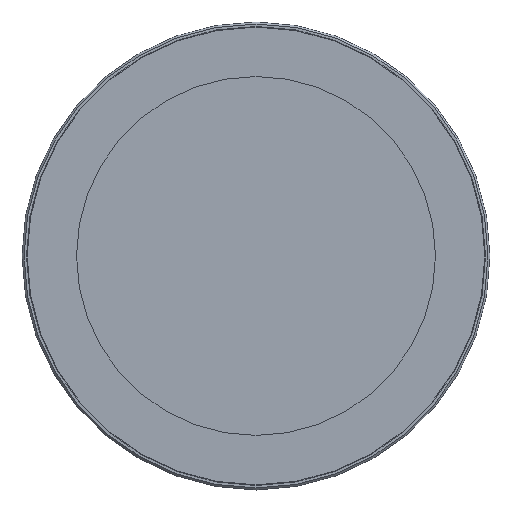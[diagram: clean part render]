
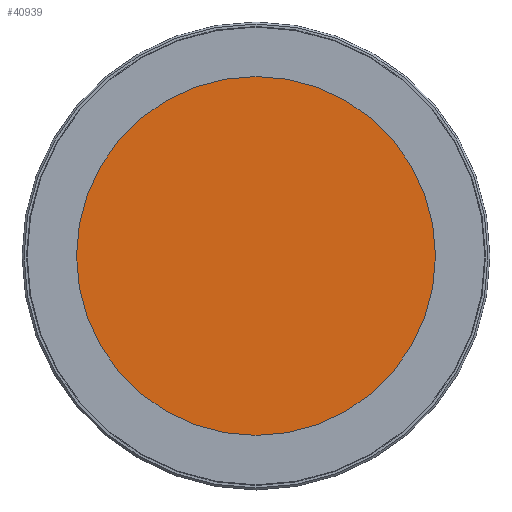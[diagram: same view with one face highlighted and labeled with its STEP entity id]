
A CAD part, top view. The second image highlights one B-rep face of the part: STEP entity #40939.
In plain terms, the highlighted planar face has unit normal (0, 0, 1).
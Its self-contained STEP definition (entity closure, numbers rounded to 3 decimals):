
#10238=CARTESIAN_POINT('',(0.,0.,3.7));
#10239=DIRECTION('',(0.,0.,-1.));
#10240=DIRECTION('',(1.,0.,0.));
#10241=AXIS2_PLACEMENT_3D('',#10238,#10239,#10240);
#10243=CARTESIAN_POINT('',(0.,0.,3.7));
#10244=DIRECTION('',(0.,0.,-1.));
#10245=DIRECTION('',(-1.,0.,0.));
#10246=AXIS2_PLACEMENT_3D('',#10243,#10244,#10245);
#15846=CARTESIAN_POINT('',(-44.1,0.,3.7));
#15847=VERTEX_POINT('',#15846);
#15848=CARTESIAN_POINT('',(44.1,0.,3.7));
#15849=VERTEX_POINT('',#15848);
#40929=CARTESIAN_POINT('',(0.,0.,3.7));
#40930=DIRECTION('',(0.,0.,1.));
#40931=DIRECTION('',(-1.,0.,0.));
#40932=AXIS2_PLACEMENT_3D('',#40929,#40930,#40931);
#40933=PLANE('',#40932);
#40934=ORIENTED_EDGE('',*,*,#40912,.T.);
#40936=ORIENTED_EDGE('',*,*,#40935,.T.);
#40937=EDGE_LOOP('',(#40934,#40936));
#40938=FACE_OUTER_BOUND('',#40937,.F.);
#40939=ADVANCED_FACE('',(#40938),#40933,.T.);
#10242=CIRCLE('',#10241,44.1);
#10247=CIRCLE('',#10246,44.1);
#40912=EDGE_CURVE('',#15849,#15847,#10242,.T.);
#40935=EDGE_CURVE('',#15847,#15849,#10247,.T.);
